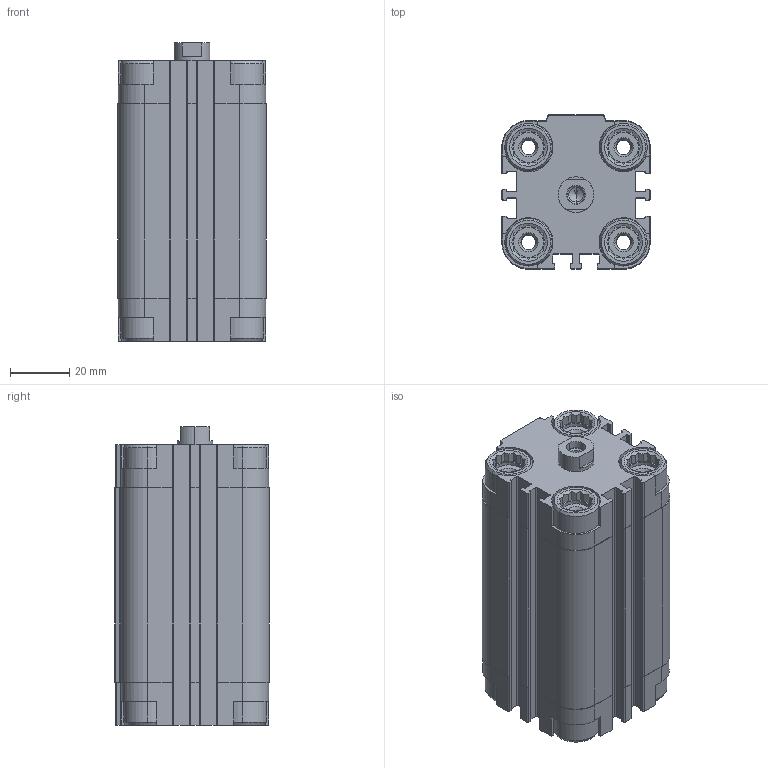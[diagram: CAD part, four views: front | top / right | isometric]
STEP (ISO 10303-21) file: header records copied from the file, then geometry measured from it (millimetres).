
FILE_DESCRIPTION (( 'STEP AP203' ), '1' );
FILE_NAME ('CDVU32-50F.STEP', '2020-03-30T14:58:02', ( '' ), ( '' ), 'SwSTEP 2.0', 'SolidWorks 2019', '' );
FILE_SCHEMA (( 'CONFIG_CONTROL_DESIGN' ));
Length unit declared in the file: millimetre
Products named in the file (1): CDVU32-50F
Bounding box: 50 x 52 x 100.5 mm (x, y, z)
Volume: 158734.5 mm3; surface area: 55539.8 mm2
Topology: 2 solids, 2 shells, 709 faces, 1894 edges, 1223 vertices
Faces by surface type: plane 417, cylinder 230, cone 62
Entity records: 22229 total; most frequent: CARTESIAN_POINT 4397, ORIENTED_EDGE 3776, DIRECTION 3636, EDGE_CURVE 1888, AXIS2_PLACEMENT_3D 1230, VERTEX_POINT 1223, LINE 1176, VECTOR 1176
